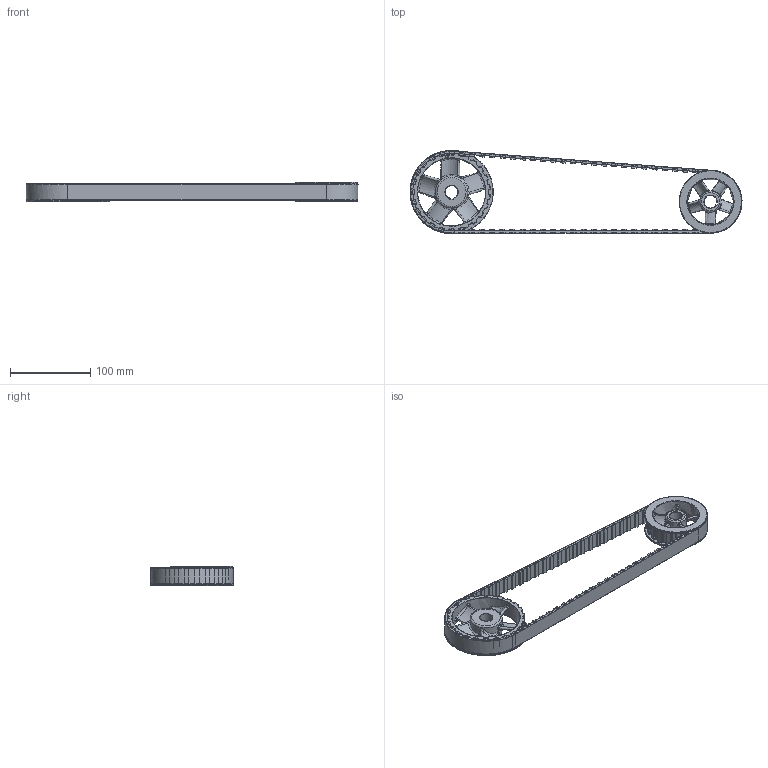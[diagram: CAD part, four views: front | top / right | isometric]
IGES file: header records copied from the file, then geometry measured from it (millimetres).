
Global section: file name: belt; native system: Autodesk Inventor 2016; preprocessor: unknown; author: Sigit; date: 20170402.132724; units: millimetre
Bounding box: 414.99 x 104 x 24 mm (x, y, z)
Volume: 199789.1 mm3; surface area: 128455.9 mm2
Topology: 75 solids, 75 shells, 1844 faces, 4165 edges, 2482 vertices
Faces by surface type: bspline 1844
